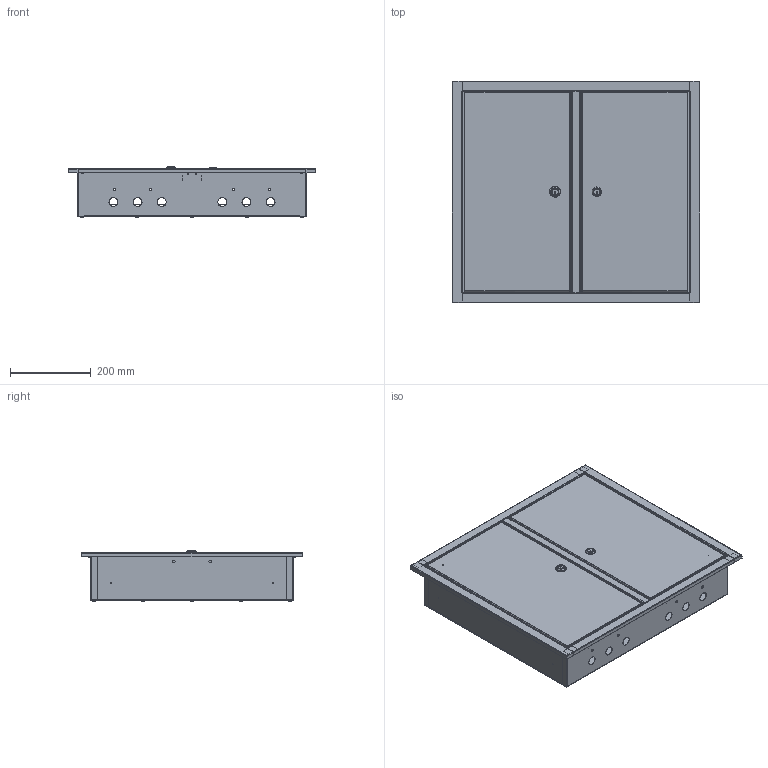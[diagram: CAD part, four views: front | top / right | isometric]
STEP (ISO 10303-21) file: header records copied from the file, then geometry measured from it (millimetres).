
FILE_DESCRIPTION (( 'STEP AP214' ), '1' );
FILE_NAME ('ÙÐÂ-72 IP31 550õ615õ120-ÊÝÀÇ.STEP', '2023-01-24T13:21:18', ( '' ), ( '' ), 'SwSTEP 2.0', 'SolidWorks 2018', '' );
FILE_SCHEMA (( 'AUTOMOTIVE_DESIGN' ));
Length unit declared in the file: millimetre
Products named in the file (1): ÙÐÂ-72 IP31 550õ615õ120-ÊÝÀÇ
Bounding box: 615 x 550 x 126.59 mm (x, y, z)
Surface area: 2068894 mm2 (no closed solid volume)
Topology: 0 solids, 84 shells, 385 faces, 1446 edges, 1064 vertices
Faces by surface type: plane 166, cylinder 161, sphere 32, cone 16, bspline 10
Entity records: 20361 total; most frequent: CARTESIAN_POINT 4121, DIRECTION 2601, ORIENTED_EDGE 1914, EDGE_CURVE 1398, VERTEX_POINT 1048, AXIS2_PLACEMENT_3D 951, LINE 699, VECTOR 699
